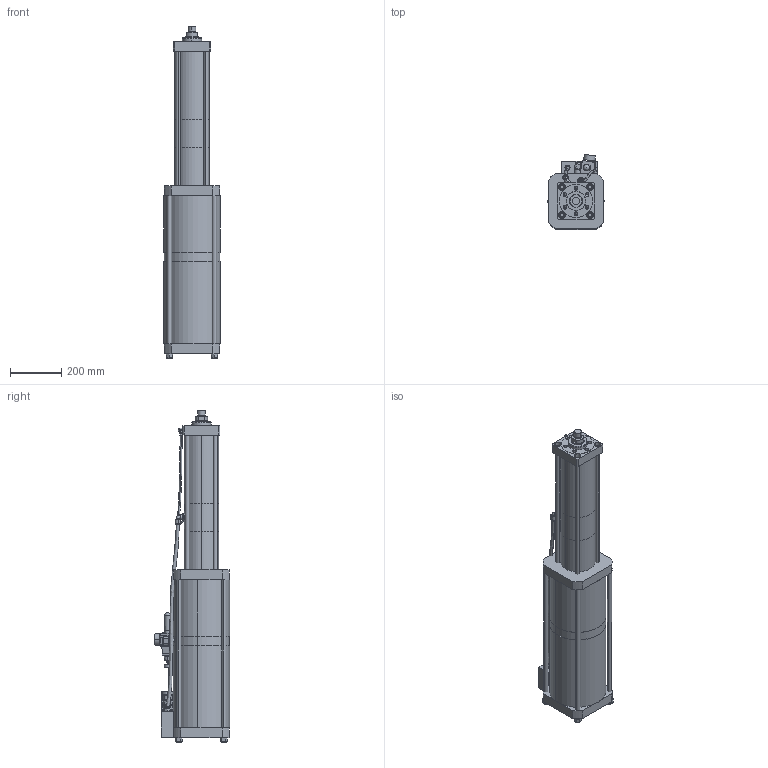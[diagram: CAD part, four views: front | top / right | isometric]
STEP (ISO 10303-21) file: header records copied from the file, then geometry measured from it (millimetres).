
FILE_DESCRIPTION (( 'STEP AP214' ), '1' );
FILE_NAME ('BS15-200-24A.STEP', '2025-10-08T06:58:17', ( 'Ranlm' ), ( '' ), 'SwSTEP 2.0', 'SolidWorks 2022', '' );
FILE_SCHEMA (( 'AUTOMOTIVE_DESIGN' ));
Length unit declared in the file: millimetre
Products named in the file (1): BS15-200-24A
Bounding box: 219.87 x 293.53 x 1298.2 mm (x, y, z)
Volume: 35956308.2 mm3; surface area: 1588979.1 mm2
Topology: 34 solids, 34 shells, 971 faces, 2249 edges, 1408 vertices
Faces by surface type: plane 411, cylinder 385, cone 114, torus 34, bspline 26, sphere 1
Entity records: 46214 total; most frequent: CARTESIAN_POINT 13334, DIRECTION 4575, ORIENTED_EDGE 4420, EDGE_CURVE 2210, AXIS2_PLACEMENT_3D 1749, VERTEX_POINT 1406, EDGE_LOOP 1102, LINE 1077
